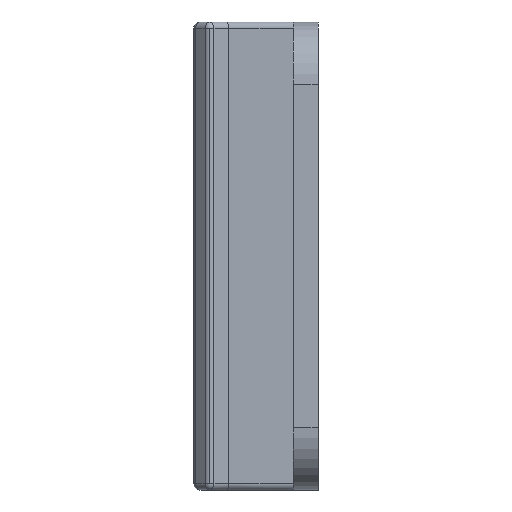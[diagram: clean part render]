
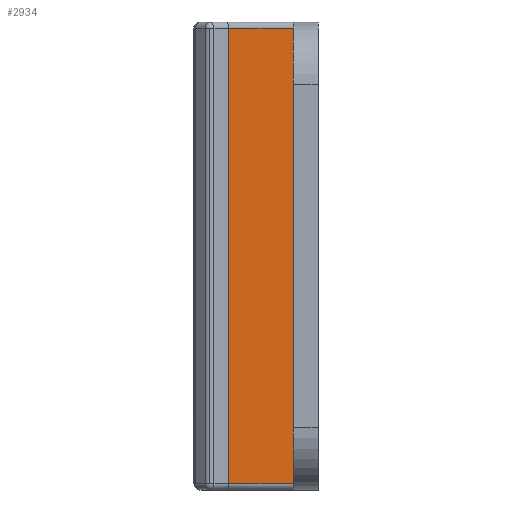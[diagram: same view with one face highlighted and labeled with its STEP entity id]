
A CAD part, left-side view. The second image highlights one B-rep face of the part: STEP entity #2934.
In plain terms, the highlighted planar face has unit normal (-1, 0, 0).
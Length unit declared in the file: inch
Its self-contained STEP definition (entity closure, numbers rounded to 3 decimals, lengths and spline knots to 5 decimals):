
#148 = VERTEX_POINT ( 'NONE', #2545 ) ;
#369 = DIRECTION ( 'NONE',  ( 0., 0., -1. ) ) ;
#521 = LINE ( 'NONE', #2957, #1915 ) ;
#528 = CARTESIAN_POINT ( 'NONE',  ( -0.85, 0.31716, 3.75 ) ) ;
#588 = ORIENTED_EDGE ( 'NONE', *, *, #2338, .T. ) ;
#608 = VERTEX_POINT ( 'NONE', #676 ) ;
#617 = ORIENTED_EDGE ( 'NONE', *, *, #961, .T. ) ;
#642 = CARTESIAN_POINT ( 'NONE',  ( -0.85, -0.2, 3.75 ) ) ;
#676 = CARTESIAN_POINT ( 'NONE',  ( -0.85, -0.2, 0.05 ) ) ;
#725 = ORIENTED_EDGE ( 'NONE', *, *, #1590, .T. ) ;
#961 = EDGE_CURVE ( 'NONE', #3038, #608, #1994, .T. ) ;
#1056 = FACE_OUTER_BOUND ( 'NONE', #2191, .T. ) ;
#1200 = DIRECTION ( 'NONE',  ( 0., 0., -1. ) ) ;
#1223 = DIRECTION ( 'NONE',  ( 0., -1., 0. ) ) ;
#1239 = CARTESIAN_POINT ( 'NONE',  ( -0.85, -0.2, 0.05 ) ) ;
#1243 = CARTESIAN_POINT ( 'NONE',  ( -0.85, -0.2, 3.7 ) ) ;
#1338 = DIRECTION ( 'NONE',  ( 1., 0., 0. ) ) ;
#1588 = VECTOR ( 'NONE', #1223, 39.37008 ) ;
#1590 = EDGE_CURVE ( 'NONE', #148, #3038, #1722, .T. ) ;
#1722 = LINE ( 'NONE', #528, #2905 ) ;
#1741 = DIRECTION ( 'NONE',  ( 0., 0., -1. ) ) ;
#1915 = VECTOR ( 'NONE', #2216, 39.37008 ) ;
#1994 = LINE ( 'NONE', #1239, #1588 ) ;
#2191 = EDGE_LOOP ( 'NONE', ( #725, #617, #2609, #588 ) ) ;
#2216 = DIRECTION ( 'NONE',  ( 0., 1., 0. ) ) ;
#2269 = PLANE ( 'NONE',  #2880 ) ;
#2292 = VECTOR ( 'NONE', #1200, 39.37008 ) ;
#2338 = EDGE_CURVE ( 'NONE', #2789, #148, #521, .T. ) ;
#2545 = CARTESIAN_POINT ( 'NONE',  ( -0.85, 0.31716, 3.7 ) ) ;
#2609 = ORIENTED_EDGE ( 'NONE', *, *, #2745, .F. ) ;
#2617 = CARTESIAN_POINT ( 'NONE',  ( -0.85, -0.2, 3.75 ) ) ;
#2733 = CARTESIAN_POINT ( 'NONE',  ( -0.85, 0.31716, 0.05 ) ) ;
#2745 = EDGE_CURVE ( 'NONE', #2789, #608, #3076, .T. ) ;
#2789 = VERTEX_POINT ( 'NONE', #1243 ) ;
#2880 = AXIS2_PLACEMENT_3D ( 'NONE', #642, #1338, #369 ) ;
#2905 = VECTOR ( 'NONE', #1741, 39.37008 ) ;
#2934 = ADVANCED_FACE ( 'NONE', ( #1056 ), #2269, .F. ) ;
#2957 = CARTESIAN_POINT ( 'NONE',  ( -0.85, 0.31716, 3.7 ) ) ;
#3038 = VERTEX_POINT ( 'NONE', #2733 ) ;
#3076 = LINE ( 'NONE', #2617, #2292 ) ;
